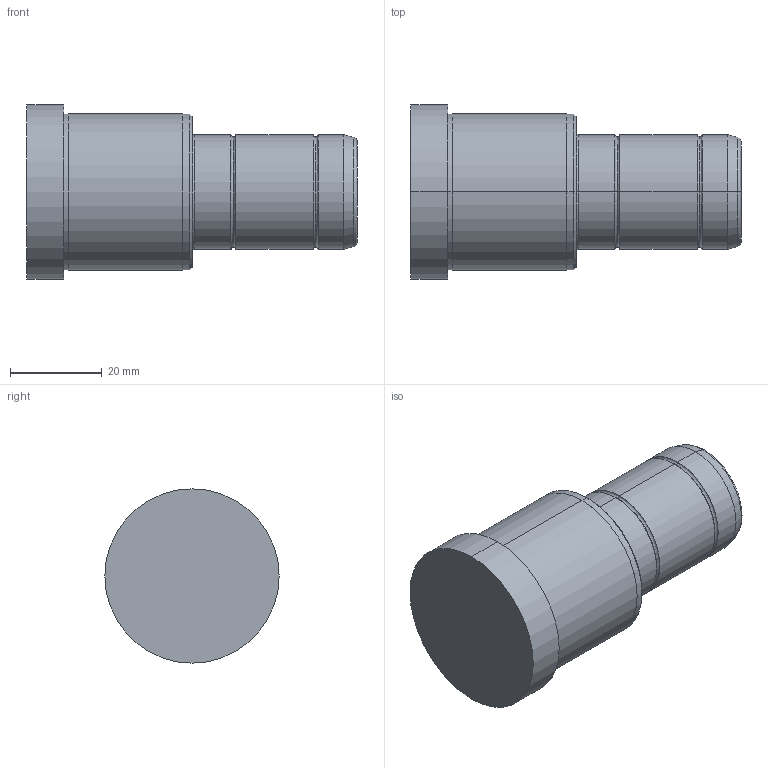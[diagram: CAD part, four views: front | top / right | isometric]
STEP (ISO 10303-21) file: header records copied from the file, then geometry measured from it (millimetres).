
FILE_DESCRIPTION( ( 'STEP AP203' ), '1' );
FILE_NAME( 'C:/Projects/D02 - 25x36x36.step', '2002-12-31T22:11:23', ( ' ' ), ( ' ' ), 'XStep 1.0', ' ', ' ' );
FILE_SCHEMA( ( 'CONFIG_CONTROL_DESIGN' ) );
Length unit declared in the file: metre
Products named in the file (1): 1
Bounding box: 72 x 38 x 38 mm (x, y, z)
Volume: 52022.4 mm3; surface area: 9002.7 mm2
Topology: 1 solids, 1 shells, 36 faces, 70 edges, 40 vertices
Faces by surface type: bspline 18, revolution 18
Entity records: 1127 total; most frequent: CARTESIAN_POINT 417, ORIENTED_EDGE 140, DIRECTION 118, EDGE_CURVE 70, AXIS2_PLACEMENT_3D 41, EDGE_LOOP 40, VERTEX_POINT 40, CIRCLE 40
